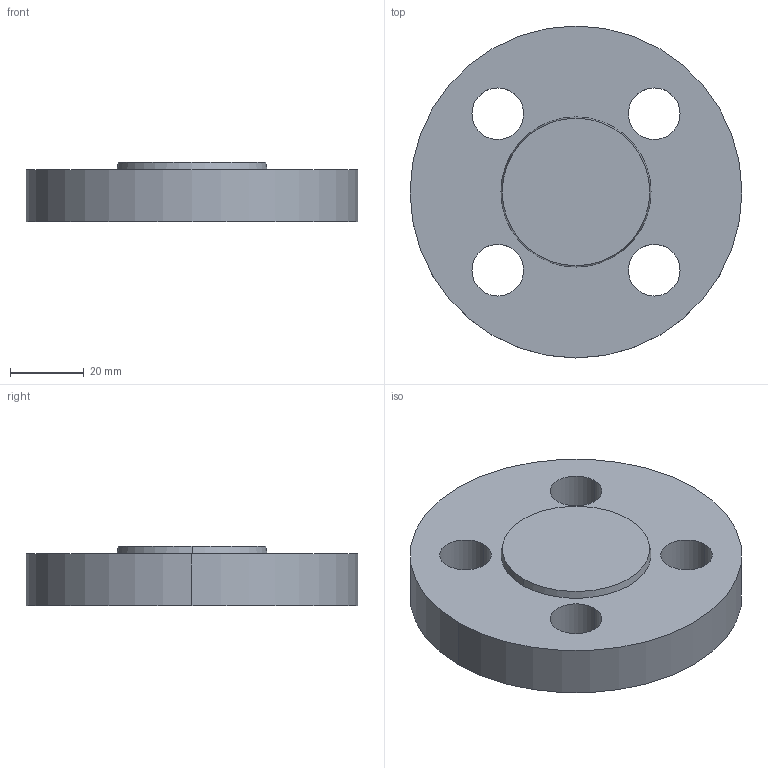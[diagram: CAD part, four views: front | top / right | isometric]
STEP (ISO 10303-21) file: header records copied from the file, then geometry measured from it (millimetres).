
FILE_DESCRIPTION (( 'STEP AP214' ), '1' );
FILE_NAME ('PN40 DN10 Type 05 - Type B Face.STEP', '2018-12-29T05:15:34', ( '' ), ( '' ), 'SwSTEP 2.0', 'SolidWorks 2019', '' );
FILE_SCHEMA (( 'AUTOMOTIVE_DESIGN' ));
Length unit declared in the file: millimetre
Products named in the file (1): PN40 DN10 Type 05 - Type B Face
Bounding box: 90 x 90 x 16 mm (x, y, z)
Volume: 83001.5 mm3; surface area: 18126.1 mm2
Topology: 1 solids, 1 shells, 15 faces, 36 edges, 24 vertices
Faces by surface type: cylinder 10, plane 3, cone 2
Entity records: 504 total; most frequent: DIRECTION 92, CARTESIAN_POINT 76, ORIENTED_EDGE 72, AXIS2_PLACEMENT_3D 40, EDGE_CURVE 36, CIRCLE 24, VERTEX_POINT 24, EDGE_LOOP 24
